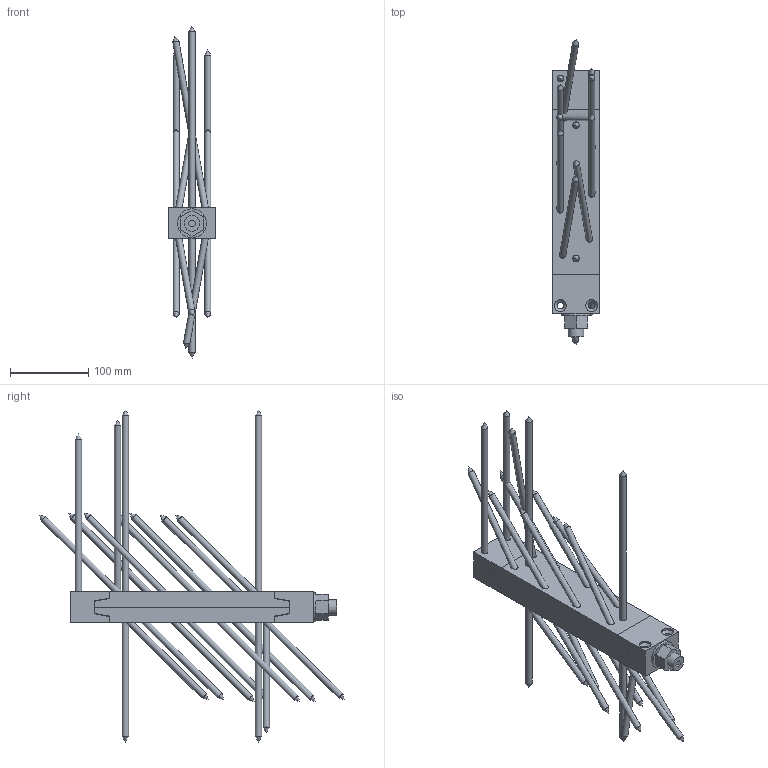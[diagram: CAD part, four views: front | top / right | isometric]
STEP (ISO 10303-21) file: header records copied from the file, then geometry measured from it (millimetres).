
FILE_DESCRIPTION(/* description */ ('Unknown'),/* implementation_level */ '2;1');
FILE_NAME(/* name */ 'MEGANT_310x60x40_Verdeckt',/* time_stamp */ '2023-11-09T15:23:27+01:00',/* author */ ('Unknown'),/* organization */ ('Unknown'),/* preprocessor_version */ 'ST-DEVELOPER v18.104',/* originating_system */ 'Solid Edge',/* authorisation */ 'Unknown');
FILE_SCHEMA (('AUTOMOTIVE_DESIGN {1 0 10303 214 3 1 1}'));
Length unit declared in the file: millimetre
Products named in the file (13): MEGANT_310x60x40_Verdeckt; Verbinderplatte_250x60x20_HT; Verbinderplatte_250x60x20; SK_Schraube_8x160; Verbinderplatte_250x60x20_NT; SK_Schraube_8x240; Spannbacke_oben_60x50x40; Spannbacke_unten_60x50x40_NT; Spannbacke_unten_60x50x40; Gewindestange_M20_L340; Mutter_M20; Beilagscheibe_M20
Assembly tree (33 placements, depth 3):
  MEGANT_310x60x40_Verdeckt
    Verbinderplatte_250x60x20_HT
      Verbinderplatte_250x60x20
      SK_Schraube_8x160  x10
    Verbinderplatte_250x60x20_NT
      Verbinderplatte_250x60x20
      SK_Schraube_8x160  x7
      SK_Schraube_8x240  x3
    Spannbacke_oben_60x50x40
    Spannbacke_unten_60x50x40_NT
      Spannbacke_unten_60x50x40
      SK_Schraube_8x240  x2
    Gewindestange_M20_L340
      Gewindestange_M20_L340
      Mutter_M20
      Beilagscheibe_M20
Bounding box: 60 x 388.97 x 424 mm (x, y, z)
Volume: 866865.4 mm3; surface area: 270428 mm2
Topology: 29 solids, 29 shells, 331 faces, 777 edges, 491 vertices
Faces by surface type: plane 157, cylinder 106, cone 68
Full cylindrical faces by diameter (mm): 8 x22, 8.5 x24, 15 x46, 17.294 x1, 19.294 x1, 20 x1, 21 x2, 37 x1
Entity records: 4742 total; most frequent: DIRECTION 760, CARTESIAN_POINT 714, ORIENTED_EDGE 604, EDGE_CURVE 302, AXIS2_PLACEMENT_3D 274, FACE_BOUND 246, EDGE_LOOP 244, VERTEX_POINT 228
